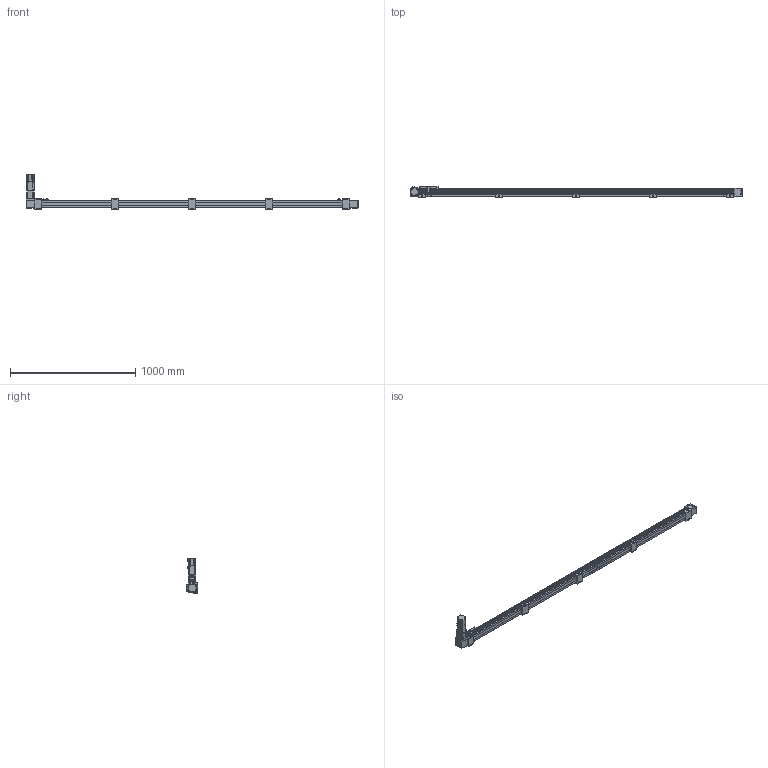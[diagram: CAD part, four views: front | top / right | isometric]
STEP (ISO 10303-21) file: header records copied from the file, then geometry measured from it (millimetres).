
FILE_DESCRIPTION(/* description */ ('STEP AP203'),/* implementation_level */ '2;1');
FILE_NAME(/* name */ 'SK60-P13-S2350-BL-T40-C1-N(0)',/* time_stamp */ '2023-04-06T03:37:53+02:00',/* author */ ('License CC BY-ND 4.0'),/* organization */ ('CADENAS'),/* preprocessor_version */ 'ST-DEVELOPER v19.3',/* originating_system */ 'PARTsolutions',/* authorisation */ ' ');
FILE_SCHEMA (('CONFIG_CONTROL_DESIGN'));
Length unit declared in the file: millimetre
Products named in the file (11): SK60-P13-S2350-BL-T40-C1-N(0); PSC140-sensor; SK60-S450_seat; SK60-S450-BL-C1_slider; SK60_body3; SK60_body6; SK60-BL_body2; T40-p1; SK60_body5; SK60_body4; SK60-S2350-BL-C1_body
Assembly tree (20 placements, depth 2):
  SK60-P13-S2350-BL-T40-C1-N(0)
    PSC140-sensor  x3
    SK60-S450_seat  x5
    SK60-S450-BL-C1_slider
    SK60_body3  x3
    SK60_body6  x2
    SK60-BL_body2  x2
    T40-p1
    SK60_body5
    SK60_body4
    SK60-S2350-BL-C1_body
Bounding box: 2650 x 90 x 278.2 mm (x, y, z)
Volume: 9594949.5 mm3; surface area: 1176657.1 mm2
Topology: 20 solids, 24 shells, 966 faces, 2403 edges, 1586 vertices
Faces by surface type: plane 616, cylinder 314, cone 34, torus 2
Full cylindrical faces by diameter (mm): 2.8 x3, 3.3 x4, 4.2 x8, 4.5 x26, 4.6 x3, 4.917 x28, 5 x2, 5.478 x4, 5.5 x31, 6.5 x10, 8 x4, 8.5 x4, 9.988 x4, 10 x20, 13.556 x1, 14 x1, 14.586 x1, 19.692 x1, 38.432 x2, 43 x1, 44 x3, 47 x2, 50 x2
Entity records: 19395 total; most frequent: DIRECTION 3298, CARTESIAN_POINT 3292, ORIENTED_EDGE 3050, EDGE_CURVE 1525, AXIS2_PLACEMENT_3D 1103, LINE 1092, VECTOR 1092, VERTEX_POINT 1077
